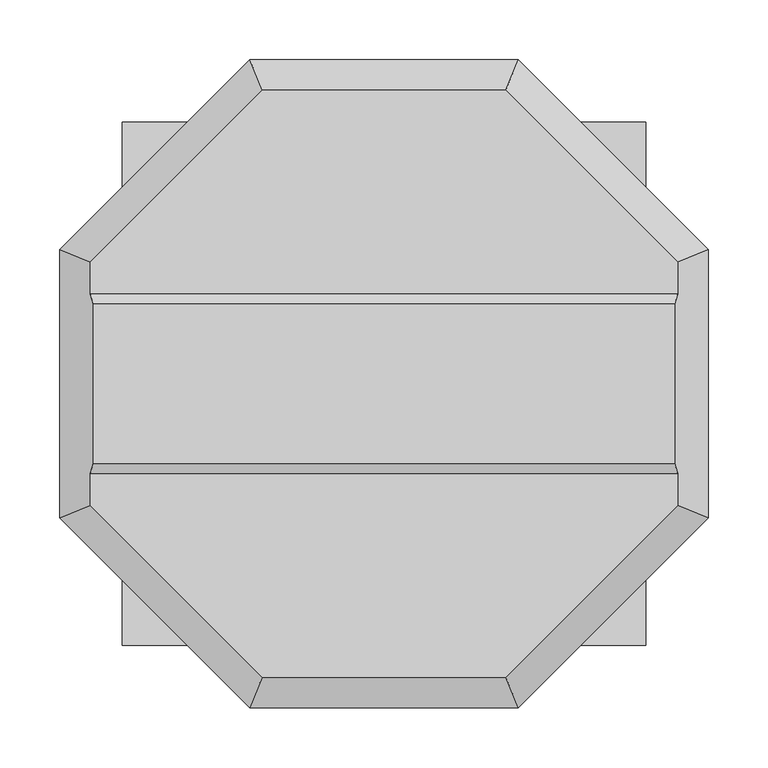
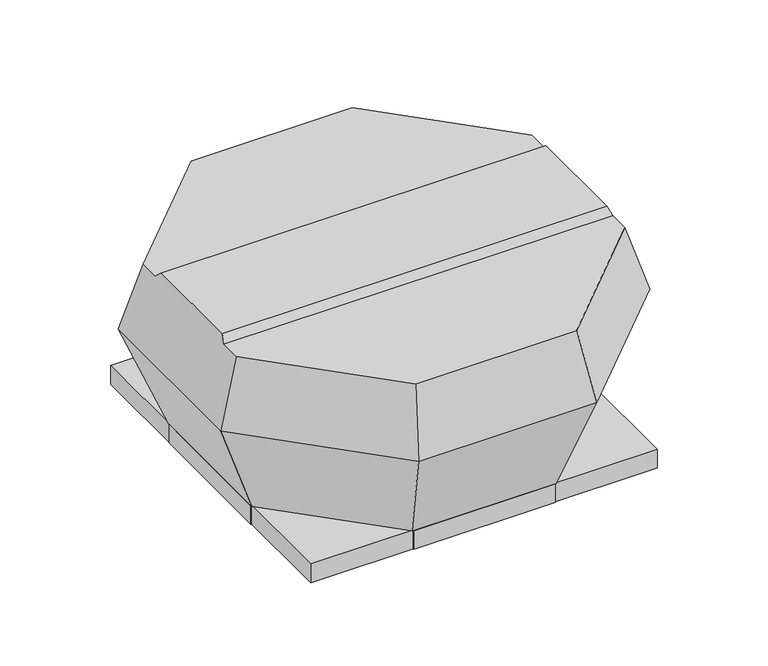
"""IFC4 building model written with IfcOpenShell, lengths in millimetres: unitary equipment geometry, VE-Wentylator-ParaForma-Harmann-VIVER-Wywiewny : 4-280/1100S."""

from ifc_helpers import new_model, si_unit, origin, place, context, project, spatial, faceted_brep, source, transform, mapped, element, save


def unitary_equipment_f09a72a4(model_context):
    return source(origin(), model_context, "Body", "Brep", [
        faceted_brep([(242.8759056, -66.5, 225.3), (242.8759056, 66.5, 225.3), (-242.8759056, 66.5, 225.3), (-242.8759056, -66.5, 225.3), (245.4048086, 74.9, 216.9), (-245.4048086, 74.9, 216.9), (245.4048086, -74.9, 216.9), (-245.4048086, -74.9, 216.9), (101.65, -245.4048086, 216.9), (245.4048086, -101.65, 216.9), (-245.4048086, -101.65, 216.9), (-101.65, -245.4048086, 216.9), (245.4048086, 101.65, 216.9), (101.65, 245.4048086, 216.9), (-101.65, 245.4048086, 216.9), (-245.4048086, 101.65, 216.9), (112.15, -270.754051, 132.7), (270.754051, -112.15, 132.7), (270.754051, 112.15, 132.7), (112.15, 270.754051, 132.7), (-112.15, 270.754051, 132.7), (-270.754051, 112.15, 132.7), (-270.754051, -112.15, 132.7), (-112.15, -270.754051, 132.7), (90.9, -219.4520128, 1.0), (-90.9, -219.4520128, 1.0), (-219.4520128, -90.9, 1.0), (-219.4520128, 90.9, 1.0), (-90.9, 219.4520128, 1.0), (90.9, 219.4520128, 1.0), (219.4520128, 90.9, 1.0), (219.4520128, -90.9, 1.0)], [[[0, 1, 2, 3]], [[1, 4, 5, 2]], [[6, 0, 3, 7]], [[8, 9, 6, 7, 10, 11]], [[12, 13, 14, 15, 5, 4]], [[9, 8, 16, 17]], [[9, 17, 18, 12, 4, 1, 0, 6]], [[13, 12, 18, 19]], [[14, 13, 19, 20]], [[15, 14, 20, 21]], [[15, 21, 22, 10, 7, 3, 2, 5]], [[11, 10, 22, 23]], [[8, 11, 23, 16]], [[24, 25, 26, 27, 28, 29, 30, 31]], [[24, 31, 17, 16]], [[31, 30, 18, 17]], [[30, 29, 19, 18]], [[29, 28, 20, 19]], [[28, 27, 21, 20]], [[27, 26, 22, 21]], [[26, 25, 23, 22]], [[25, 24, 16, 23]]]),
        faceted_brep([(217.55, 217.55, -24.0), (217.55, 217.55, 0.0), (-217.55, 217.55, 0.0), (-217.55, 217.55, -24.0), (218.55, 218.55, 1.0), (218.55, 218.55, -24.0), (-218.55, 218.55, -24.0), (-218.55, 218.55, 1.0), (-217.55, -217.55, 0.0), (-217.55, -217.55, -24.0), (-218.55, -218.55, -24.0), (-218.55, -218.55, 1.0), (217.55, -217.55, 0.0), (217.55, -217.55, -24.0), (218.55, -218.55, -24.0), (218.55, -218.55, 1.0)], [[[0, 1, 2, 3]], [[4, 5, 6, 7]], [[3, 2, 8, 9]], [[7, 6, 10, 11]], [[9, 8, 12, 13]], [[11, 10, 14, 15]], [[13, 12, 1, 0]], [[5, 14, 10, 6], [3, 9, 13, 0]], [[15, 14, 5, 4]], [[7, 11, 15, 4]], [[1, 12, 8, 2]]]),
        faceted_brep([(-218.6, -89.5, -24.0), (-219.6, -89.5, -24.0), (-219.6, 89.5, -24.0), (-218.6, 89.5, -24.0), (-218.6, -89.5, 1.0), (-218.6, 89.5, 1.0), (-219.6, 89.5, 1.0), (-219.6, -89.5, 1.0)], [[[0, 1, 2, 3]], [[4, 5, 6, 7]], [[1, 0, 4, 7]], [[2, 1, 7, 6]], [[3, 2, 6, 5]], [[0, 3, 5, 4]]]),
        faceted_brep([(219.6, -89.5, -24.0), (218.6, -89.5, -24.0), (218.6, 89.5, -24.0), (219.6, 89.5, -24.0), (219.6, 89.5, 1.0), (218.6, 89.5, 1.0), (218.6, 5.0, 1.0), (218.6, -5.0, 1.0), (218.6, -89.5, 1.0), (219.6, -89.5, 1.0), (219.6, -5.0, 1.0), (219.6, 5.0, 1.0)], [[[0, 1, 2, 3]], [[4, 5, 6, 7, 8, 9, 10, 11]], [[1, 0, 9, 8]], [[2, 1, 8, 7, 6, 5]], [[3, 2, 5, 4]], [[0, 3, 4, 11, 10, 9]]]),
        faceted_brep([(89.5, 218.6, -24.0), (-89.5, 218.6, -24.0), (-89.5, 219.6, -24.0), (89.5, 219.6, -24.0), (89.5, 218.6, 1.0), (89.5, 219.6, 1.0), (-89.5, 219.6, 1.0), (-89.5, 218.6, 1.0)], [[[0, 1, 2, 3]], [[4, 5, 6, 7]], [[1, 0, 4, 7]], [[2, 1, 7, 6]], [[3, 2, 6, 5]], [[0, 3, 5, 4]]]),
        faceted_brep([(89.5, -219.6, -24.0), (-89.5, -219.6, -24.0), (-89.5, -218.6, -24.0), (89.5, -218.6, -24.0), (89.5, -219.6, 1.0), (89.5, -218.6, 1.0), (-89.5, -218.6, 1.0), (-89.5, -219.6, 1.0)], [[[0, 1, 2, 3]], [[4, 5, 6, 7]], [[1, 0, 4, 7]], [[2, 1, 7, 6]], [[3, 2, 6, 5]], [[0, 3, 5, 4]]]),
    ])


if __name__ == "__main__":
    model = new_model("IFC4")
    model_context = context("Model", 3, world=origin())
    ifc_project = project(units=[si_unit("LENGTHUNIT", "METRE", prefix="MILLI")], contexts=[model_context])
    site = spatial("IfcSite", under=ifc_project)
    building = spatial("IfcBuilding", under=site)
    placement = place(None, origin())
    unitary_equipment_shape = unitary_equipment_f09a72a4(model_context)
    element("IfcUnitaryEquipment", 1, ObjectType="VE-Wentylator-ParaForma-Harmann-VIVER-Wywiewny : 4-280/1100S", at=placement, inside=building, context=model_context, shape_type="MappedRepresentation", body=[
        mapped(unitary_equipment_shape, transform((0.0, 0.0, 0.0), x_axis=(1.0, 0.0, 0.0), y_axis=(0.0, 1.0, 0.0), z_axis=(0.0, 0.0, 1.0))),
    ])
    save(model, "model.ifc")
